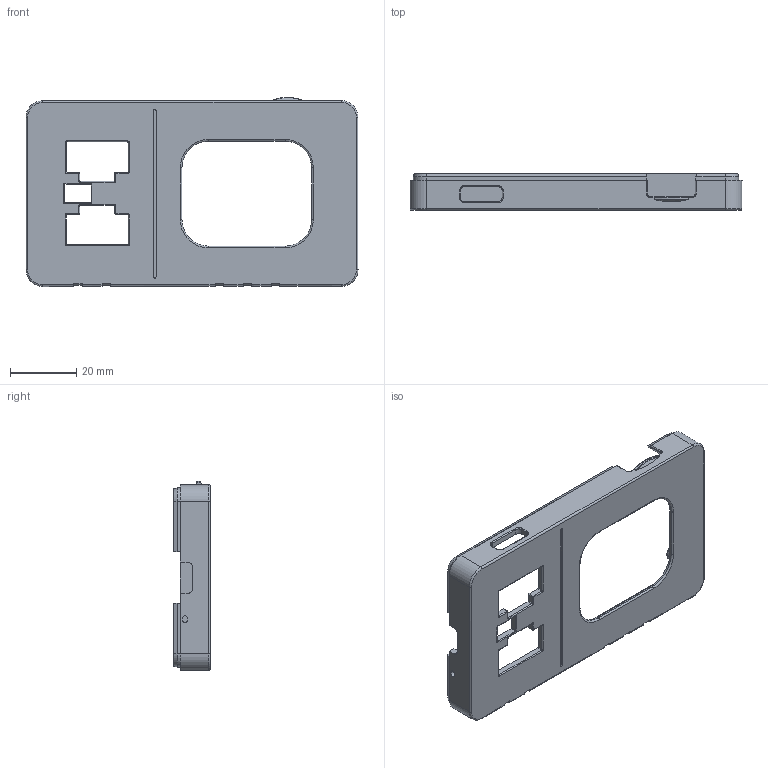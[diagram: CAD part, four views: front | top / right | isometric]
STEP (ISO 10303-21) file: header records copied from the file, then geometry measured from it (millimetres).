
FILE_DESCRIPTION((''),'2;1');
FILE_NAME('SHANGKE','2025-09-17T15:11:47',('seeed'),(''),'CREO PARAMETRIC BY PTC INC, 2021284','CREO PARAMETRIC BY PTC INC, 2021284','');
FILE_SCHEMA(('CONFIG_CONTROL_DESIGN'));
Length unit declared in the file: millimetre
Products named in the file (1): SHANGKE
Bounding box: 100.13 x 11 x 57.01 mm (x, y, z)
Volume: 13144 mm3; surface area: 14743.9 mm2
Topology: 1 solids, 1 shells, 398 faces, 1027 edges, 647 vertices
Faces by surface type: plane 183, cylinder 136, torus 38, cone 25, bspline 10, extrusion 6
Entity records: 12862 total; most frequent: CARTESIAN_POINT 2983, DIRECTION 2071, ORIENTED_EDGE 2054, EDGE_CURVE 1027, AXIS2_PLACEMENT_3D 708, VECTOR 655, LINE 649, VERTEX_POINT 647
